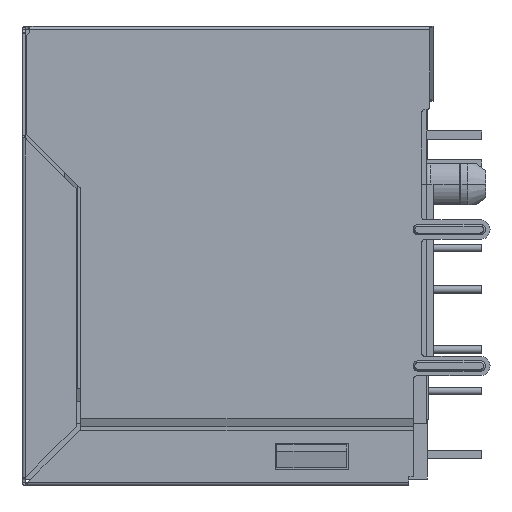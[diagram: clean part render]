
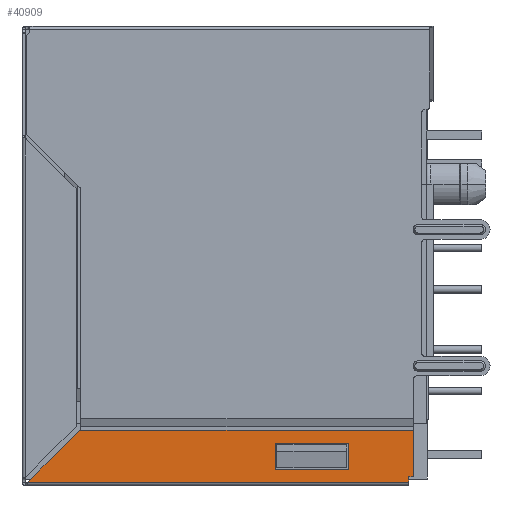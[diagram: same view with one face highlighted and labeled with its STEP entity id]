
A CAD part, front view. The second image highlights one B-rep face of the part: STEP entity #40909.
In plain terms, the highlighted planar face has unit normal (0, -1, 0).
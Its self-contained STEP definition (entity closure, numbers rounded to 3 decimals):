
#37908=CARTESIAN_POINT('Vertex',(39.87,313.182,-18.447)) ;
#37911=CARTESIAN_POINT('Line Origine',(39.87,313.182,-18.623)) ;
#37915=CARTESIAN_POINT('Vertex',(39.87,313.182,-18.798)) ;
#39674=CARTESIAN_POINT('Vertex',(19.708,313.182,-15.623)) ;
#39677=CARTESIAN_POINT('Line Origine',(19.708,313.182,-15.611)) ;
#39681=CARTESIAN_POINT('Vertex',(19.708,313.182,-15.6)) ;
#39728=CARTESIAN_POINT('Line Origine',(40.157,313.182,-17.024)) ;
#39732=CARTESIAN_POINT('Vertex',(40.157,313.182,-18.447)) ;
#39734=CARTESIAN_POINT('Vertex',(40.157,313.182,-15.6)) ;
#40814=CARTESIAN_POINT('Line Origine',(40.014,313.182,-18.447)) ;
#40828=CARTESIAN_POINT('Axis2P3D Location',(45.538,313.182,13.678)) ;
#40833=CARTESIAN_POINT('Line Origine',(29.932,313.182,-15.6)) ;
#40838=CARTESIAN_POINT('Line Origine',(19.7,313.182,-15.623)) ;
#40842=CARTESIAN_POINT('Vertex',(19.693,313.182,-15.623)) ;
#40845=CARTESIAN_POINT('Axis2P3D Location',(19.693,313.182,-15.773)) ;
#40849=CARTESIAN_POINT('Vertex',(19.587,313.182,-15.667)) ;
#40852=CARTESIAN_POINT('Line Origine',(18.021,313.182,-17.232)) ;
#40856=CARTESIAN_POINT('Vertex',(16.455,313.182,-18.798)) ;
#40859=CARTESIAN_POINT('Line Origine',(28.163,313.182,-18.798)) ;
#40875=CARTESIAN_POINT('Line Origine',(33.907,313.182,-18.)) ;
#40879=CARTESIAN_POINT('Vertex',(36.157,313.182,-18.)) ;
#40881=CARTESIAN_POINT('Vertex',(31.657,313.182,-18.)) ;
#40884=CARTESIAN_POINT('Line Origine',(31.657,313.182,-17.2)) ;
#40888=CARTESIAN_POINT('Vertex',(31.657,313.182,-16.4)) ;
#40891=CARTESIAN_POINT('Line Origine',(33.907,313.182,-16.4)) ;
#40895=CARTESIAN_POINT('Vertex',(36.157,313.182,-16.4)) ;
#40898=CARTESIAN_POINT('Line Origine',(36.157,313.182,-17.2)) ;
#37912=DIRECTION('Vector Direction',(0.,0.,1.)) ;
#39678=DIRECTION('Vector Direction',(0.,0.,-1.)) ;
#39729=DIRECTION('Vector Direction',(0.,0.,1.)) ;
#40815=DIRECTION('Vector Direction',(1.,0.,0.)) ;
#40829=DIRECTION('Axis2P3D Direction',(0.,-1.,0.)) ;
#40830=DIRECTION('Axis2P3D XDirection',(1.,0.,0.)) ;
#40834=DIRECTION('Vector Direction',(-1.,0.,0.)) ;
#40839=DIRECTION('Vector Direction',(-1.,0.,0.)) ;
#40846=DIRECTION('Axis2P3D Direction',(0.,-1.,0.)) ;
#40853=DIRECTION('Vector Direction',(-0.707,0.,-0.707)) ;
#40860=DIRECTION('Vector Direction',(1.,0.,0.)) ;
#40876=DIRECTION('Vector Direction',(-1.,0.,0.)) ;
#40885=DIRECTION('Vector Direction',(0.,0.,1.)) ;
#40892=DIRECTION('Vector Direction',(1.,0.,0.)) ;
#40899=DIRECTION('Vector Direction',(0.,0.,1.)) ;
#40831=AXIS2_PLACEMENT_3D('Plane Axis2P3D',#40828,#40829,#40830) ;
#40847=AXIS2_PLACEMENT_3D('Circle Axis2P3D',#40845,#40846,$) ;
#40865=ORIENTED_EDGE('',*,*,#37917,.T.) ;
#40866=ORIENTED_EDGE('',*,*,#40818,.T.) ;
#40867=ORIENTED_EDGE('',*,*,#39736,.T.) ;
#40868=ORIENTED_EDGE('',*,*,#40837,.T.) ;
#40869=ORIENTED_EDGE('',*,*,#39683,.T.) ;
#40870=ORIENTED_EDGE('',*,*,#40844,.T.) ;
#40871=ORIENTED_EDGE('',*,*,#40851,.T.) ;
#40872=ORIENTED_EDGE('',*,*,#40858,.T.) ;
#40873=ORIENTED_EDGE('',*,*,#40863,.T.) ;
#40904=ORIENTED_EDGE('',*,*,#40883,.T.) ;
#40905=ORIENTED_EDGE('',*,*,#40890,.T.) ;
#40906=ORIENTED_EDGE('',*,*,#40897,.T.) ;
#40907=ORIENTED_EDGE('',*,*,#40902,.F.) ;
#40908=FACE_BOUND('',#40903,.T.) ;
#37913=VECTOR('Line Direction',#37912,1.) ;
#39679=VECTOR('Line Direction',#39678,1.) ;
#39730=VECTOR('Line Direction',#39729,1.) ;
#40816=VECTOR('Line Direction',#40815,1.) ;
#40835=VECTOR('Line Direction',#40834,1.) ;
#40840=VECTOR('Line Direction',#40839,1.) ;
#40854=VECTOR('Line Direction',#40853,1.) ;
#40861=VECTOR('Line Direction',#40860,1.) ;
#40877=VECTOR('Line Direction',#40876,1.) ;
#40886=VECTOR('Line Direction',#40885,1.) ;
#40893=VECTOR('Line Direction',#40892,1.) ;
#40900=VECTOR('Line Direction',#40899,1.) ;
#40909=ADVANCED_FACE('MANIFOLD_SOLID_BREP #2253',(#40874,#40908),#40832,.T.) ;
#40848=CIRCLE('generated circle',#40847,0.15) ;
#37917=EDGE_CURVE('',#37916,#37909,#37914,.T.) ;
#39683=EDGE_CURVE('',#39682,#39675,#39680,.T.) ;
#39736=EDGE_CURVE('',#39733,#39735,#39731,.T.) ;
#40818=EDGE_CURVE('',#37909,#39733,#40817,.T.) ;
#40837=EDGE_CURVE('',#39735,#39682,#40836,.T.) ;
#40844=EDGE_CURVE('',#39675,#40843,#40841,.T.) ;
#40851=EDGE_CURVE('',#40843,#40850,#40848,.T.) ;
#40858=EDGE_CURVE('',#40850,#40857,#40855,.T.) ;
#40863=EDGE_CURVE('',#40857,#37916,#40862,.T.) ;
#40883=EDGE_CURVE('',#40880,#40882,#40878,.T.) ;
#40890=EDGE_CURVE('',#40882,#40889,#40887,.T.) ;
#40897=EDGE_CURVE('',#40889,#40896,#40894,.T.) ;
#40902=EDGE_CURVE('',#40880,#40896,#40901,.T.) ;
#40864=EDGE_LOOP('',(#40865,#40866,#40867,#40868,#40869,#40870,#40871,#40872,#40873)) ;
#40903=EDGE_LOOP('',(#40904,#40905,#40906,#40907)) ;
#40874=FACE_OUTER_BOUND('',#40864,.T.) ;
#37914=LINE('Line',#37911,#37913) ;
#39680=LINE('Line',#39677,#39679) ;
#39731=LINE('Line',#39728,#39730) ;
#40817=LINE('Line',#40814,#40816) ;
#40836=LINE('Line',#40833,#40835) ;
#40841=LINE('Line',#40838,#40840) ;
#40855=LINE('Line',#40852,#40854) ;
#40862=LINE('Line',#40859,#40861) ;
#40878=LINE('Line',#40875,#40877) ;
#40887=LINE('Line',#40884,#40886) ;
#40894=LINE('Line',#40891,#40893) ;
#40901=LINE('Line',#40898,#40900) ;
#40832=PLANE('Plane',#40831) ;
#37909=VERTEX_POINT('',#37908) ;
#37916=VERTEX_POINT('',#37915) ;
#39675=VERTEX_POINT('',#39674) ;
#39682=VERTEX_POINT('',#39681) ;
#39733=VERTEX_POINT('',#39732) ;
#39735=VERTEX_POINT('',#39734) ;
#40843=VERTEX_POINT('',#40842) ;
#40850=VERTEX_POINT('',#40849) ;
#40857=VERTEX_POINT('',#40856) ;
#40880=VERTEX_POINT('',#40879) ;
#40882=VERTEX_POINT('',#40881) ;
#40889=VERTEX_POINT('',#40888) ;
#40896=VERTEX_POINT('',#40895) ;
